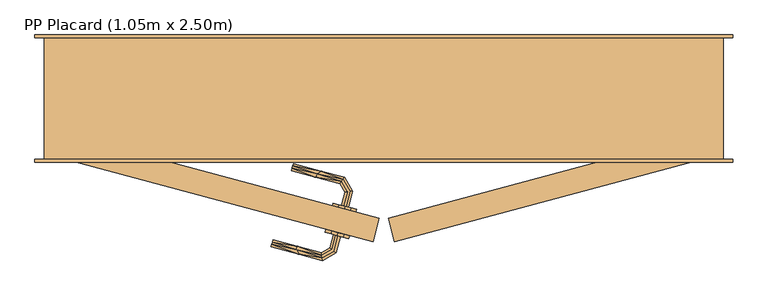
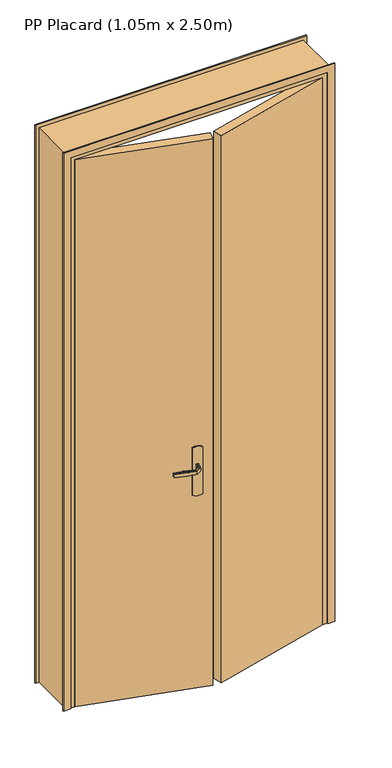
"""IFC4 building model written with IfcOpenShell, lengths in millimetres: door geometry, PP Placard (1.05m x 2.50m)."""

import ifcopenshell
import ifcopenshell.guid

model = None  # the IFC model being written
_history = None  # IfcOwnerHistory: only IFC2X3 demands one
_inside = {}  # id of a spatial element -> (the spatial element, [elements in it])
_under = {}  # id of a project, library or spatial element -> (it, [spatial elements below it])
_declared = {}  # id of a project -> (the project, [libraries it declares])
_typed = {}  # id of a type object -> (the type object, [elements of that type])
_made_of = {}  # id of a material, layer set ... -> (it, [elements and type objects made of it])


def new_model(schema):
    """Start an empty IFC model of exactly this schema.

    Asked for "IFC4X3", IfcOpenShell would pick the latest addendum, in which some entities
    have other attributes; the version numbers below select the first issue.
    IFC2X3 requires an IfcOwnerHistory on every rooted entity: one is made here for all.
    """
    global model, _history
    if schema == "IFC4X3":
        model = ifcopenshell.file(schema_version=(4, 3, 0, 0))
    else:
        model = ifcopenshell.file(schema=schema)
    _inside.clear()
    _under.clear()
    _declared.clear()
    _typed.clear()
    _made_of.clear()
    _history = None
    if model.schema == "IFC2X3":
        org = make("IfcOrganization", Name="unknown")
        user = make(
            "IfcPersonAndOrganization",
            ThePerson=make("IfcPerson", FamilyName="unknown"),
            TheOrganization=org,
        )
        app = make(
            "IfcApplication",
            ApplicationDeveloper=org,
            Version="unknown",
            ApplicationFullName="unknown",
            ApplicationIdentifier="unknown",
        )
        _history = make(
            "IfcOwnerHistory",
            OwningUser=user,
            OwningApplication=app,
            ChangeAction="ADDED",
            CreationDate=0,
        )
    return model


def make(cls, **values):
    """One entity of the class cls with the attributes given. An attribute that is None is left unset."""
    return model.create_entity(
        cls, **{name: value for name, value in values.items() if value is not None}
    )


def rooted(cls, **values):
    """An entity with a GlobalId (a new one), such as an element, a storey or a relation."""
    return make(cls, GlobalId=ifcopenshell.guid.new(), OwnerHistory=_history, **values)


def si_unit(unit_type, name, prefix=None):
    """IfcSIUnit, for example si_unit("LENGTHUNIT", "METRE", prefix="MILLI")."""
    return make("IfcSIUnit", UnitType=unit_type, Prefix=prefix, Name=name)


def assignment(units):
    """IfcUnitAssignment: the units of a project."""
    return None if units is None else make("IfcUnitAssignment", Units=units)


def point(xyz):
    """IfcCartesianPoint."""
    return None if xyz is None else make("IfcCartesianPoint", Coordinates=xyz)


def direction(xyz):
    """IfcDirection."""
    return None if xyz is None else make("IfcDirection", DirectionRatios=xyz)


def frame(location, z_axis=None, x_axis=None):
    """IfcAxis2Placement3D, a coordinate frame: its origin and axes. An axis left out is left unset."""
    return make(
        "IfcAxis2Placement3D",
        Location=point(location),
        Axis=direction(z_axis),
        RefDirection=direction(x_axis),
    )


def origin():
    """The frame at (0, 0, 0) with its axes left unset."""
    return frame((0.0, 0.0, 0.0))


def origin_with_axes():
    """The frame at (0, 0, 0) with the z axis (0, 0, 1) and the x axis (1, 0, 0) written out."""
    return frame((0.0, 0.0, 0.0), z_axis=(0.0, 0.0, 1.0), x_axis=(1.0, 0.0, 0.0))


def place(relative_to, where):
    """IfcLocalPlacement: puts the frame where relative to a parent placement (None: the world)."""
    return make(
        "IfcLocalPlacement", PlacementRelTo=relative_to, RelativePlacement=where
    )


def context(
    kind, dimensions, precision=None, world=None, true_north=None, identifier=None
):
    """IfcGeometricRepresentationContext, for example the 3D "Model" context."""
    return make(
        "IfcGeometricRepresentationContext",
        ContextIdentifier=identifier,
        ContextType=kind,
        CoordinateSpaceDimension=dimensions,
        Precision=precision,
        WorldCoordinateSystem=world,
        TrueNorth=true_north,
    )


def project(units=None, contexts=None):
    """IfcProject with its units and contexts."""
    return rooted(
        "IfcProject",
        Name="project",
        RepresentationContexts=contexts,
        UnitsInContext=assignment(units),
    )


def spatial(cls, under=None, at=None, **own):
    """A site, building, storey or space (cls), placed at a placement, below another one or the project."""
    s = rooted(cls, ObjectPlacement=at, **own)
    if under is not None:
        _under.setdefault(under.id(), (under, []))[1].append(s)
    return s


def polyline(points):
    """IfcPolyline through the points."""
    return make("IfcPolyline", Points=[point(p) for p in points])


def outline(outer, holes=None, kind="AREA"):
    """IfcArbitraryClosedProfileDef: a profile drawn as a closed curve; with holes, ...WithVoids."""
    if holes is None:
        return make("IfcArbitraryClosedProfileDef", ProfileType=kind, OuterCurve=outer)
    return make(
        "IfcArbitraryProfileDefWithVoids",
        ProfileType=kind,
        OuterCurve=outer,
        InnerCurves=holes,
    )


def extrude(swept, where, along, depth):
    """IfcExtrudedAreaSolid: the profile swept, set in the frame where, extruded along a direction by depth."""
    return make(
        "IfcExtrudedAreaSolid",
        SweptArea=swept,
        Position=where,
        ExtrudedDirection=direction(along),
        Depth=depth,
    )


def faces_of(points, faces, orient=None, outer=None):
    """IfcFace entities. A face is a list of loops; a loop is a list of indices into points, from 0.

    orient and outer hold one flag for each loop. By default every Orientation is true, the
    first loop of a face is its IfcFaceOuterBound and the others are IfcFaceBound.
    """
    made = []
    for i, loops in enumerate(faces):
        bounds = []
        for j, loop in enumerate(loops):
            is_outer = j == 0 if outer is None else outer[i][j]
            bounds.append(
                make(
                    "IfcFaceOuterBound" if is_outer else "IfcFaceBound",
                    Bound=make("IfcPolyLoop", Polygon=[points[k] for k in loop]),
                    Orientation=True if orient is None else orient[i][j],
                )
            )
        made.append(make("IfcFace", Bounds=bounds))
    return made


def faceted_brep(points, faces, orient=None, outer=None, voids=None):
    """IfcFacetedBrep: a solid bounded by flat faces; with voids (closed shells), ...WithVoids."""
    shared = [point(p) for p in points]
    hull = make("IfcClosedShell", CfsFaces=faces_of(shared, faces, orient, outer))
    if voids is None:
        return make("IfcFacetedBrep", Outer=hull)
    return make(
        "IfcFacetedBrepWithVoids",
        Outer=hull,
        Voids=[
            make(cls, CfsFaces=faces_of(shared, fs, o, b)) for cls, fs, o, b in voids
        ],
    )


def shape(context_of_items, identifier, shape_type, items):
    """IfcShapeRepresentation: the items that make up one representation, for example the "Body"."""
    return make(
        "IfcShapeRepresentation",
        ContextOfItems=context_of_items,
        RepresentationIdentifier=identifier,
        RepresentationType=shape_type,
        Items=items,
    )


def source(mapping_origin, context_of_items, identifier, shape_type, items):
    """IfcRepresentationMap: a shape defined once, which mapped items show again and again."""
    return make(
        "IfcRepresentationMap",
        MappingOrigin=mapping_origin,
        MappedRepresentation=shape(context_of_items, identifier, shape_type, items),
    )


def transform(
    local_origin,
    x_axis=None,
    y_axis=None,
    z_axis=None,
    scale=None,
    scale2=None,
    scale3=None,
    uniform=True,
):
    """IfcCartesianTransformationOperator3D, or its non-uniform kind. x_axis, y_axis, z_axis: its Axis1, 2, 3."""
    if uniform:
        return make(
            "IfcCartesianTransformationOperator3D",
            Axis1=direction(x_axis),
            Axis2=direction(y_axis),
            LocalOrigin=point(local_origin),
            Scale=scale,
            Axis3=direction(z_axis),
        )
    return make(
        "IfcCartesianTransformationOperator3DnonUniform",
        Axis1=direction(x_axis),
        Axis2=direction(y_axis),
        LocalOrigin=point(local_origin),
        Scale=scale,
        Axis3=direction(z_axis),
        Scale2=scale2,
        Scale3=scale3,
    )


def mapped(mapping_source, mapping_target):
    """IfcMappedItem: shows the shape of a source again, moved by a transform."""
    return make(
        "IfcMappedItem", MappingSource=mapping_source, MappingTarget=mapping_target
    )


def made_of(thing, what):
    """Note that an element or type object is made of a material, layer set ...; save() writes the relation."""
    if what is not None:
        _made_of.setdefault(what.id(), (what, []))[1].append(thing)
    return thing


def element(
    cls,
    number,
    at=None,
    inside=None,
    cuts=None,
    type_object=None,
    material=None,
    context=None,
    identifier="Body",
    shape_type=None,
    held_by="IfcProductDefinitionShape",
    body=None,
    shapes=None,
    **own,
):
    """One element of the class cls, such as IfcWall. Its Tag is "e" and its number.

    at: its placement. inside: the storey or other place that contains it. cuts: it is an
    opening in that element (IfcRelVoidsElement). A single representation is given by context,
    identifier, shape_type and body (its items); several are given by shapes. held_by: the class
    of the entity that holds the representations. save() writes the other relations.
    """
    e = rooted(cls, Tag="e%d" % number, ObjectPlacement=at, **own)
    if body is not None:
        shapes = [shape(context, identifier, shape_type, body)]
    if shapes is not None:
        e.Representation = make(held_by, Representations=shapes)
    if inside is not None:
        _inside.setdefault(inside.id(), (inside, []))[1].append(e)
    if cuts is not None:
        rooted(
            "IfcRelVoidsElement", RelatingBuildingElement=cuts, RelatedOpeningElement=e
        )
    if type_object is not None:
        _typed.setdefault(type_object.id(), (type_object, []))[1].append(e)
    return made_of(e, material)


def aggregate(whole, parts):
    """IfcRelAggregates: a whole, such as a stair, and the parts it consists of."""
    return rooted("IfcRelAggregates", RelatingObject=whole, RelatedObjects=parts)


def save(model, path):
    """Write the relations noted so far, then the file.

    IfcRelAggregates (storeys below a building ...), IfcRelContainedInSpatialStructure (elements
    in a storey), IfcRelDefinesByType, IfcRelAssociatesMaterial and IfcRelDeclares: one each for
    every whole, place, type object, material and project.
    """
    for whole, parts in _under.values():
        aggregate(whole, parts)
    for where, things in _inside.values():
        rooted(
            "IfcRelContainedInSpatialStructure",
            RelatedElements=things,
            RelatingStructure=where,
        )
    for kind, things in _typed.values():
        rooted("IfcRelDefinesByType", RelatedObjects=things, RelatingType=kind)
    for what, things in _made_of.values():
        rooted("IfcRelAssociatesMaterial", RelatedObjects=things, RelatingMaterial=what)
    for by, libraries in _declared.values():
        rooted("IfcRelDeclares", RelatingContext=by, RelatedDefinitions=libraries)
    model.write(path)


def pp_placard_1_05m_x_2_50m_ac87d000(model_context):
    return source(origin(), model_context, "Body", "SolidModel", [
        extrude(outline(polyline([(622.4638206, -97.2429656), (612.1110588, -135.8799987), (105.0, 0.0), (115.3527618, 38.6370331), (622.4638206, -97.2429656)])), origin_with_axes(), (0.0, 0.0, 1.0), 2450.0),
        faceted_brep([(563.846078, -76.3600079, 992.2195592), (567.7586545, -77.4083797, 992.2195592), (571.5979212, -78.4371081, 993.0), (571.5979212, -78.4371081, 1007.0), (567.7586545, -77.4083797, 1007.7804408), (563.846078, -76.3600079, 1007.7804408), (560.0068113, -75.3312795, 1007.0), (560.0068113, -75.3312795, 993.0), (565.8264105, -53.6122398, 1007.0), (565.8264105, -53.6122398, 993.0), (570.0917904, -53.0506919, 1007.7804408), (574.4386167, -52.4784213, 1007.7804408), (562.9931089, -32.6542201, 1007.7804408), (560.3240948, -36.1325469, 1007.7804408), (578.7039967, -51.9168734, 1007.0), (578.7039967, -51.9168734, 993.0), (574.4386167, -52.4784213, 992.2195592), (570.0917904, -53.0506919, 992.2195592), (560.3240948, -36.1325469, 992.2195592), (562.9931089, -32.6542201, 992.2195592), (557.7050901, -39.5457003, 1007.0), (557.7050901, -39.5457003, 993.0), (565.6121136, -29.2410667, 1007.0), (565.6121136, -29.2410667, 993.0), (478.9864971, -14.3382033, 1007.7804408), (480.0348689, -10.4256267, 1007.7804408), (481.0635973, -6.58636, 1007.0), (481.0635973, -6.58636, 993.0), (480.0348689, -10.4256267, 992.2195592), (478.9864971, -14.3382033, 992.2195592), (477.9577687, -18.17747, 993.0), (477.9577687, -18.17747, 1007.0), (517.8314294, -28.8615851, 1007.0), (517.8314409, -28.8615882, 993.0), (520.1794819, -23.2790868, 1007.8786868), (527.0422248, -18.9062961, 1007.0), (527.0422262, -18.9062965, 993.0), (520.1794816, -23.2790868, 992.1213132)], [[[0, 1, 2, 3, 4, 5, 6, 7]], [[8, 9, 7, 6]], [[5, 10, 8, 6]], [[5, 4, 11, 12, 13, 10]], [[3, 14, 11, 4]], [[14, 3, 2, 15]], [[2, 1, 16, 15]], [[1, 0, 17, 18, 19, 16]], [[0, 7, 9, 17]], [[20, 21, 9, 8]], [[8, 10, 13, 20]], [[14, 22, 12, 11]], [[23, 22, 14, 15]], [[15, 16, 19, 23]], [[17, 9, 21, 18]], [[24, 25, 26, 27, 28, 29, 30, 31]], [[21, 20, 32, 31, 30, 33]], [[34, 24, 32]], [[25, 34, 35]], [[13, 32, 20]], [[24, 31, 32]], [[25, 35, 26]], [[35, 12, 22]], [[34, 12, 35]], [[34, 13, 12]], [[34, 32, 13]], [[24, 34, 25]], [[22, 23, 36, 27, 26, 35]], [[37, 28, 36]], [[36, 28, 27]], [[36, 23, 19]], [[18, 33, 37]], [[33, 18, 21]], [[30, 29, 33]], [[37, 29, 28]], [[37, 33, 29]], [[37, 36, 19]], [[18, 37, 19]]]),
        extrude(outline(polyline([(0.0, 1205.0), (2500.0, 1205.0), (2500.0, 55.0), (0.0, 55.0), (0.0, 85.0), (2470.0, 85.0), (2470.0, 1175.0), (0.0, 1175.0), (0.0, 1205.0)])), frame((0.0, -5.0, 0.0), z_axis=(0.0, 1.0, 0.0), x_axis=(0.0, 0.0, 1.0)), (0.0, 0.0, 1.0), 5.0),
        extrude(outline(polyline([(637.5361794, -97.2429656), (1144.6472382, 38.6370331), (1155.0, 0.0), (647.8889412, -135.8799987), (637.5361794, -97.2429656)])), origin_with_axes(), (0.0, 0.0, 1.0), 2450.0),
        faceted_brep([(1190.0, 0.0, 0.0), (1155.0, 0.0, 0.0), (1155.0, 40.0, 0.0), (1140.0, 40.0, 0.0), (1140.0, 200.0, 0.0), (1190.0, 200.0, 0.0), (1190.0, 200.0, 2485.0), (1190.0, 0.0, 2485.0), (1140.0, 200.0, 2435.0), (120.0, 200.0, 2435.0), (120.0, 200.0, 0.0), (70.0, 200.0, 0.0), (70.0, 200.0, 2485.0), (1140.0, 40.0, 2435.0), (1155.0, 40.0, 2450.0), (105.0, 40.0, 2450.0), (105.0, 40.0, 0.0), (120.0, 40.0, 0.0), (120.0, 40.0, 2435.0), (1155.0, 0.0, 2450.0), (70.0, 0.0, 2485.0), (70.0, 0.0, 0.0), (105.0, 0.0, 0.0), (105.0, 0.0, 2450.0)], [[[0, 1, 2, 3, 4, 5]], [[5, 6, 7, 0]], [[4, 8, 9, 10, 11, 12, 6, 5]], [[3, 13, 8, 4]], [[2, 14, 15, 16, 17, 18, 13, 3]], [[1, 19, 14, 2]], [[0, 7, 20, 21, 22, 23, 19, 1]], [[12, 11, 21, 20]], [[21, 11, 10, 17, 16, 22]], [[18, 17, 10, 9]], [[23, 22, 16, 15]], [[6, 12, 20, 7]], [[13, 18, 9, 8]], [[19, 23, 15, 14]]]),
        extrude(outline(polyline([(0.0, 0.0), (206.2910989, 39.2935427), (212.0216556, 30.5643916), (215.2976776, 20.649502), (215.8959097, 10.2245572), (213.7755833, 0.0), (7.4844843, -39.2935427), (1.7539277, -30.5643917), (-1.5220943, -20.6495022), (-2.1203264, -10.2245574), (0.0, 0.0)])), frame((583.8267876, -86.8902038, 870.0), z_axis=(0.25881904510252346, 0.9659258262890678, 0.0), x_axis=(-0.18073641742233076, 0.04842817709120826, 0.9823385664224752)), (0.0, 0.0, 1.0), 5.0),
        extrude(outline(polyline([(0.0, 0.0), (206.2910989, 39.2935427), (212.0216555, 30.5643917), (215.2976776, 20.6495021), (215.8959097, 10.2245573), (213.7755833, 0.0), (7.4844843, -39.2935426), (1.7539277, -30.5643916), (-1.5220943, -20.6495021), (-2.1203264, -10.2245573), (0.0, 0.0)])), frame((572.1799305, -130.356866, 870.0), z_axis=(0.2588190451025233, 0.9659258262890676, 0.0), x_axis=(-0.18073641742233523, 0.0484281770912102, 0.9823385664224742)), (0.0, 0.0, 1.0), 5.0),
        faceted_brep([(550.9051257, -124.6562992, 1007.7804408), (554.8177023, -125.704671, 1007.7804408), (558.656969, -126.7333994, 1007.0), (558.656969, -126.7333994, 993.0), (554.8177023, -125.704671, 992.2195592), (550.9051257, -124.6562992, 992.2195592), (547.065859, -123.6275708, 993.0), (547.065859, -123.6275708, 1007.0), (548.0872229, -150.823162, 1007.7804408), (551.5003763, -153.4421668, 1007.0), (544.6088961, -148.154148, 1007.7804408), (527.8591642, -157.8246103, 1007.7804408), (528.4314347, -162.1714366, 1007.7804408), (541.1957427, -145.5351433, 1007.0), (541.1957427, -145.5351433, 993.0), (544.6088961, -148.154148, 992.2195592), (548.0872229, -150.823162, 992.2195592), (528.4314347, -162.1714366, 992.2195592), (527.8591642, -157.8246103, 992.2195592), (551.5003763, -153.4421668, 993.0), (528.9929826, -166.4368166, 1007.0), (527.2976162, -153.5592304, 1007.0), (527.2976162, -153.5592304, 993.0), (528.9929826, -166.4368166, 993.0), (444.3378613, -143.7535452, 1007.0), (445.3665897, -139.9142785, 1007.7804408), (446.4149615, -136.001702, 1007.7804408), (447.4436899, -132.1624353, 1007.0), (447.4436899, -132.1624353, 993.0), (446.4149615, -136.001702, 992.2195592), (445.3665897, -139.9142785, 992.2195592), (444.3378613, -143.7535452, 993.0), (486.6128769, -148.8694444, 1007.8786868), (490.4230937, -156.102046, 1007.0), (487.3706531, -142.8608328, 1007.0), (487.3706531, -142.8608328, 993.0), (486.6128771, -148.8694445, 992.1213132), (490.4231011, -156.102048, 993.0)], [[[0, 1, 2, 3, 4, 5, 6, 7]], [[2, 1, 8, 9]], [[1, 0, 10, 11, 12, 8]], [[0, 7, 13, 10]], [[14, 13, 7, 6]], [[5, 15, 14, 6]], [[5, 4, 16, 17, 18, 15]], [[3, 19, 16, 4]], [[9, 19, 3, 2]], [[9, 8, 12, 20]], [[10, 13, 21, 11]], [[22, 21, 13, 14]], [[14, 15, 18, 22]], [[16, 19, 23, 17]], [[20, 23, 19, 9]], [[24, 25, 26, 27, 28, 29, 30, 31]], [[32, 25, 33]], [[33, 25, 24]], [[33, 20, 12]], [[11, 34, 32]], [[34, 11, 21]], [[27, 26, 34]], [[32, 26, 25]], [[32, 34, 26]], [[32, 33, 12]], [[11, 32, 12]], [[21, 22, 35, 28, 27, 34]], [[36, 29, 35]], [[30, 36, 37]], [[18, 35, 22]], [[29, 28, 35]], [[30, 37, 31]], [[37, 17, 23]], [[36, 17, 37]], [[36, 18, 17]], [[36, 35, 18]], [[29, 36, 30]], [[23, 20, 33, 24, 31, 37]]]),
        extrude(outline(polyline([(0.0, 1205.0), (2500.0, 1205.0), (2500.0, 55.0), (0.0, 55.0), (0.0, 85.0), (2470.0, 85.0), (2470.0, 1175.0), (0.0, 1175.0), (0.0, 1205.0)])), frame((0.0, 200.0, 0.0), z_axis=(0.0, 1.0, 0.0), x_axis=(0.0, 0.0, 1.0)), (0.0, 0.0, 1.0), 5.0),
    ])


if __name__ == "__main__":
    model = new_model("IFC4")
    model_context = context("Model", 3, world=origin())
    ifc_project = project(units=[si_unit("LENGTHUNIT", "METRE", prefix="MILLI")], contexts=[model_context])
    site = spatial("IfcSite", under=ifc_project)
    building = spatial("IfcBuilding", under=site)
    placement = place(None, origin())
    pp_placard_1_05m_x_2_50m_shape = pp_placard_1_05m_x_2_50m_ac87d000(model_context)
    element("IfcDoor", 1, ObjectType="PP Placard (1.05m x 2.50m)", at=placement, inside=building, context=model_context, shape_type="MappedRepresentation", body=[
        mapped(pp_placard_1_05m_x_2_50m_shape, transform((0.0, 0.0, 0.0), x_axis=(1.0, 0.0, 0.0), y_axis=(0.0, 1.0, 0.0), z_axis=(0.0, 0.0, 1.0))),
    ])
    save(model, "model.ifc")
